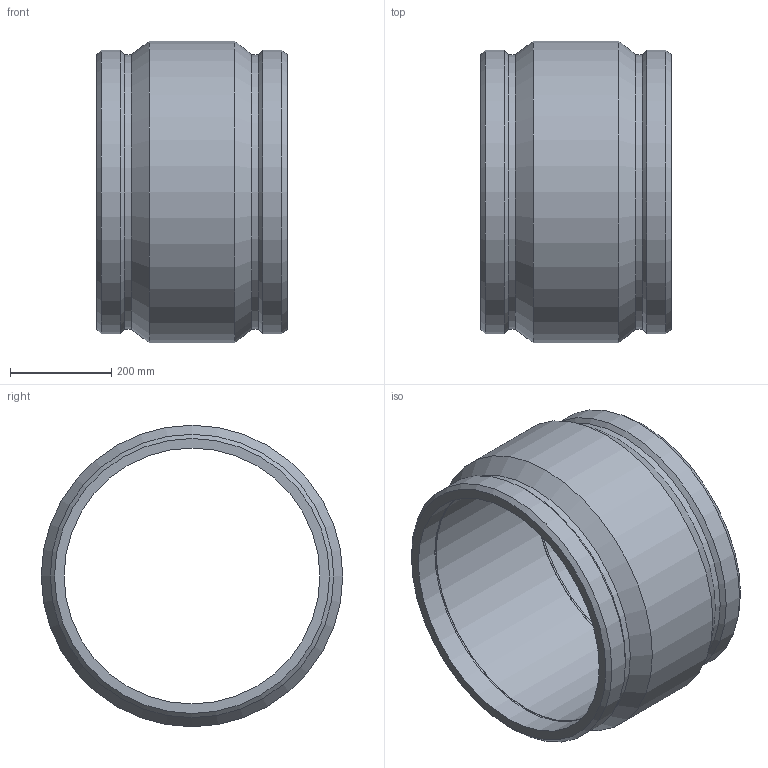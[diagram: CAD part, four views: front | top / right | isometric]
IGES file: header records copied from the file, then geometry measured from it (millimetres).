
Global section: file name: 5901B003200.ipt; native system: Autodesk Inventor 2019; preprocessor: unknown; author: KIM; date: 20210830.100859; units: inch
Bounding box: 375.92 x 595.88 x 595.88 mm (x, y, z)
Volume: 22543475.5 mm3; surface area: 1397226.9 mm2
Topology: 1 solids, 1 shells, 20 faces, 44 edges, 28 vertices
Faces by surface type: cone 6, cylinder 5, revolution 5, plane 4
Full cylindrical faces by diameter (mm): 543.327 x2, 560.131 x2, 595.884 x1
